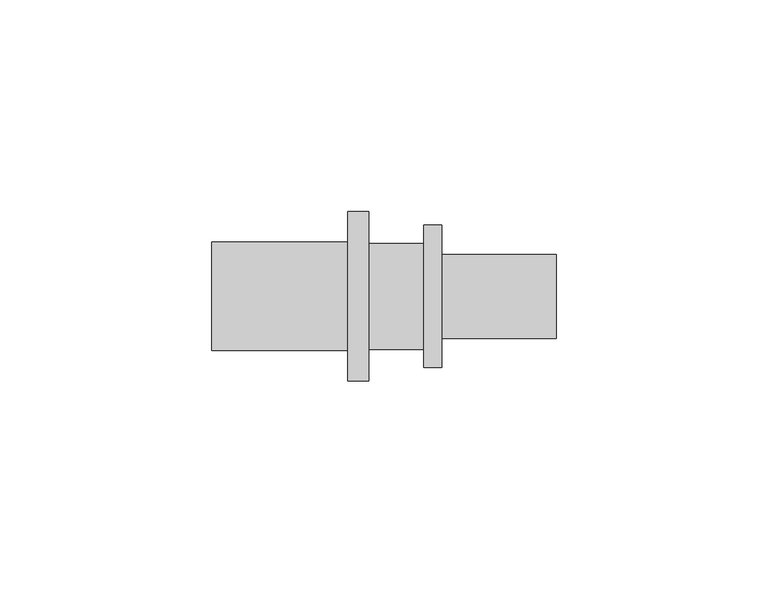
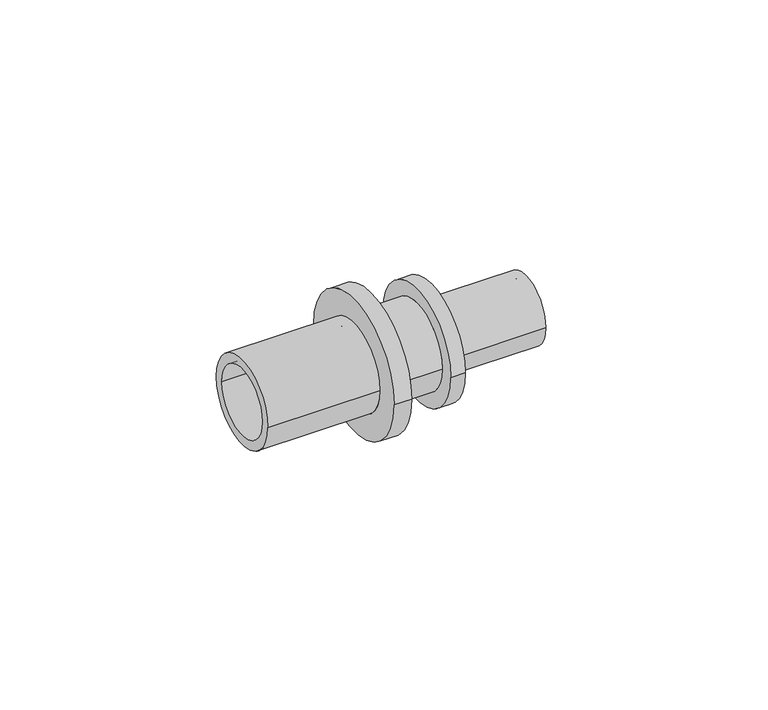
"""IFC4 building model written with IfcOpenShell, lengths in millimetres: pipe fitting geometry, RAUTITAN_Transition_RX+ : RTI RX+ Tr DE."""

from ifc_helpers import new_model, si_unit, frame, origin, place, context, project, spatial, polyline, circle_curve, source, transform, mapped, element, save
from ifc_brep_helpers import plane_surface, cylinder_surface, revolved_surface, advanced_brep


def pipe_fitting_fca7ca8d(model_context):
    return source(origin(), model_context, "Body", "AdvancedBrep", [
        advanced_brep(
        [(-43.5, 10.0, 0.0), (-43.5, -10.0, 0.0), (-11.5, -10.0, 0.0), (-11.5, 10.0, 0.0), (6.5, 12.5, 0.0), (6.5, -12.5, 0.0), (-6.5, -12.5, 0.0), (-6.5, 12.5, 0.0), (10.7, 16.8, 0.0), (10.7, -16.8, 0.0), (6.5, -16.8, 0.0), (6.5, 16.8, 0.0), (37.7, 9.9, 0.0), (37.7, -9.9, 0.0), (10.7, -9.9, 0.0), (10.7, 9.9, 0.0), (-9.1, 7.6, 0.0), (-9.1, -7.6, 0.0), (37.7, -7.6, 0.0), (37.7, 7.6, 0.0), (-6.5, 20.0, 0.0), (-6.5, -20.0, 0.0), (-11.5, 12.8, 0.0), (-11.5, -12.8, 0.0), (-43.5, -12.8, 0.0), (-43.5, 12.8, 0.0), (-11.5, -20.0, 0.0), (-11.5, 20.0, 0.0)],
        [
            (0, 1, circle_curve(frame((-43.5, 0.0, 0.0), z_axis=(-1.0, 0.0, 0.0), x_axis=(0.0, -1.0, 0.0)), 10.0)),
            (1, 2),
            (2, 3, circle_curve(frame((-11.5, 0.0, 0.0), z_axis=(1.0, 0.0, 0.0), x_axis=(0.0, -1.0, 0.0)), 10.0)),
            (3, 0),
            (4, 5, circle_curve(frame((6.5, 0.0, 0.0), z_axis=(-1.0, 0.0, 0.0), x_axis=(0.0, -1.0, 0.0)), 12.5)),
            (5, 6),
            (6, 7, circle_curve(frame((-6.5, 0.0, 0.0), z_axis=(1.0, 0.0, 0.0), x_axis=(0.0, -1.0, 0.0)), 12.5)),
            (7, 4),
            (8, 9, circle_curve(frame((10.7, 0.0, 0.0), z_axis=(-1.0, 0.0, 0.0), x_axis=(0.0, -1.0, 0.0)), 16.8)),
            (9, 10),
            (10, 11, circle_curve(frame((6.5, 0.0, 0.0), z_axis=(1.0, 0.0, 0.0), x_axis=(0.0, -1.0, 0.0)), 16.8)),
            (11, 8),
            (12, 13, circle_curve(frame((37.7, 0.0, 0.0), z_axis=(-1.0, 0.0, 0.0), x_axis=(0.0, -1.0, 0.0)), 9.9)),
            (13, 14),
            (14, 15, circle_curve(frame((10.7, 0.0, 0.0), z_axis=(1.0, 0.0, 0.0), x_axis=(0.0, -1.0, 0.0)), 9.9)),
            (15, 12),
            (16, 17, circle_curve(frame((-9.1, 0.0, 0.0), z_axis=(-1.0, 0.0, 0.0), x_axis=(0.0, -1.0, 0.0)), 7.6)),
            (17, 18),
            (18, 19, circle_curve(frame((37.7, 0.0, 0.0), z_axis=(1.0, 0.0, 0.0), x_axis=(0.0, -1.0, 0.0)), 7.6)),
            (19, 16),
            (2, 17),
            (16, 3),
            (1, 0, circle_curve(frame((-43.5, 0.0, 0.0), z_axis=(-1.0, 0.0, 0.0), x_axis=(0.0, 1.0, 0.0)), 10.0)),
            (3, 2, circle_curve(frame((-11.5, 0.0, 0.0), z_axis=(1.0, 0.0, 0.0), x_axis=(0.0, 1.0, 0.0)), 10.0)),
            (20, 21, circle_curve(frame((-6.5, 0.0, 0.0), z_axis=(1.0, 0.0, 0.0), x_axis=(0.0, 1.0, 0.0)), 20.0)),
            (21, 20, circle_curve(frame((-6.5, 0.0, 0.0), z_axis=(1.0, 0.0, 0.0), x_axis=(0.0, -1.0, 0.0)), 20.0)),
            (6, 7, circle_curve(frame((-6.5, 0.0, 0.0), z_axis=(-1.0, 0.0, 0.0), x_axis=(0.0, 1.0, 0.0)), 12.5)),
            (5, 4, circle_curve(frame((6.5, 0.0, 0.0), z_axis=(-1.0, 0.0, 0.0), x_axis=(0.0, 1.0, 0.0)), 12.5)),
            (10, 11, circle_curve(frame((6.5, 0.0, 0.0), z_axis=(-1.0, 0.0, 0.0), x_axis=(0.0, 1.0, 0.0)), 16.8)),
            (9, 8, circle_curve(frame((10.7, 0.0, 0.0), z_axis=(-1.0, 0.0, 0.0), x_axis=(0.0, 1.0, 0.0)), 16.8)),
            (14, 15, circle_curve(frame((10.7, 0.0, 0.0), z_axis=(-1.0, 0.0, 0.0), x_axis=(0.0, 1.0, 0.0)), 9.9)),
            (13, 12, circle_curve(frame((37.7, 0.0, 0.0), z_axis=(-1.0, 0.0, 0.0), x_axis=(0.0, 1.0, 0.0)), 9.9)),
            (18, 19, circle_curve(frame((37.7, 0.0, 0.0), z_axis=(-1.0, 0.0, 0.0), x_axis=(0.0, 1.0, 0.0)), 7.6)),
            (17, 16, circle_curve(frame((-9.1, 0.0, 0.0), z_axis=(-1.0, 0.0, 0.0), x_axis=(0.0, 1.0, 0.0)), 7.6)),
            (22, 23, circle_curve(frame((-11.5, 0.0, 0.0), z_axis=(-1.0, 0.0, 0.0), x_axis=(0.0, -1.0, 0.0)), 12.8)),
            (23, 24),
            (24, 25, circle_curve(frame((-43.5, 0.0, 0.0), z_axis=(1.0, 0.0, 0.0), x_axis=(0.0, -1.0, 0.0)), 12.8)),
            (25, 22),
            (21, 26),
            (26, 27, circle_curve(frame((-11.5, 0.0, 0.0), z_axis=(1.0, 0.0, 0.0), x_axis=(0.0, -1.0, 0.0)), 20.0)),
            (27, 20),
            (24, 25, circle_curve(frame((-43.5, 0.0, 0.0), z_axis=(-1.0, 0.0, 0.0), x_axis=(0.0, 1.0, 0.0)), 12.8)),
            (23, 22, circle_curve(frame((-11.5, 0.0, 0.0), z_axis=(-1.0, 0.0, 0.0), x_axis=(0.0, 1.0, 0.0)), 12.8)),
            (26, 27, circle_curve(frame((-11.5, 0.0, 0.0), z_axis=(-1.0, 0.0, 0.0), x_axis=(0.0, 1.0, 0.0)), 20.0)),
        ],
        [
            revolved_surface(polyline([(-11.5, -10.0, 0.0), (-43.5, -10.0, 0.0)]), (0.0, 0.0, 0.0), (1.0, 0.0, 0.0)),
            cylinder_surface(frame((0.0, 0.0, 0.0), z_axis=(1.0, 0.0, 0.0), x_axis=(0.0, -1.0, 0.0)), 12.5),
            cylinder_surface(frame((0.0, 0.0, 0.0), z_axis=(1.0, 0.0, 0.0), x_axis=(0.0, -1.0, 0.0)), 16.8),
            cylinder_surface(frame((0.0, 0.0, 0.0), z_axis=(1.0, 0.0, 0.0), x_axis=(0.0, -1.0, 0.0)), 9.9),
            revolved_surface(polyline([(37.7, -7.6, 0.0), (-9.1, -7.6, 0.0)]), (0.0, 0.0, 0.0), (1.0, 0.0, 0.0)),
            revolved_surface(polyline([(-9.1, -7.6, 0.0), (-11.5, -10.0, 0.0)]), (0.0, 0.0, 0.0), (1.0, 0.0, 0.0)),
            revolved_surface(polyline([(-11.5, 10.0, 0.0), (-43.5, 10.0, 0.0)]), (0.0, 0.0, 0.0), (1.0, 0.0, 0.0)),
            plane_surface(frame((-6.5, 0.0, 0.0), z_axis=(1.0, 0.0, 0.0), x_axis=(0.0, 1.0, 0.0))),
            cylinder_surface(frame((0.0, 0.0, 0.0), z_axis=(1.0, 0.0, 0.0), x_axis=(0.0, 1.0, 0.0)), 12.5),
            plane_surface(frame((6.5, 0.0, 0.0), z_axis=(-1.0, 0.0, 0.0), x_axis=(0.0, 1.0, 0.0))),
            cylinder_surface(frame((0.0, 0.0, 0.0), z_axis=(1.0, 0.0, 0.0), x_axis=(0.0, 1.0, 0.0)), 16.8),
            plane_surface(frame((10.7, 0.0, 0.0), z_axis=(1.0, 0.0, 0.0), x_axis=(0.0, 1.0, 0.0))),
            cylinder_surface(frame((0.0, 0.0, 0.0), z_axis=(1.0, 0.0, 0.0), x_axis=(0.0, 1.0, 0.0)), 9.9),
            plane_surface(frame((37.7, 0.0, 0.0), z_axis=(1.0, 0.0, 0.0), x_axis=(0.0, 1.0, 0.0))),
            revolved_surface(polyline([(37.7, 7.6, 0.0), (-9.1, 7.6, 0.0)]), (0.0, 0.0, 0.0), (1.0, 0.0, 0.0)),
            revolved_surface(polyline([(-9.1, 7.6, 0.0), (-11.5, 10.0, 0.0)]), (0.0, 0.0, 0.0), (1.0, 0.0, 0.0)),
            cylinder_surface(frame((0.0, 0.0, 0.0), z_axis=(1.0, 0.0, 0.0), x_axis=(0.0, -1.0, 0.0)), 12.8),
            cylinder_surface(frame((0.0, 0.0, 0.0), z_axis=(1.0, 0.0, 0.0), x_axis=(0.0, -1.0, 0.0)), 20.0),
            plane_surface(frame((-43.5, 0.0, 0.0), z_axis=(-1.0, 0.0, 0.0), x_axis=(0.0, 1.0, 0.0))),
            cylinder_surface(frame((0.0, 0.0, 0.0), z_axis=(1.0, 0.0, 0.0), x_axis=(0.0, 1.0, 0.0)), 12.8),
            plane_surface(frame((-11.5, 0.0, 0.0), z_axis=(-1.0, 0.0, 0.0), x_axis=(0.0, 1.0, 0.0))),
            cylinder_surface(frame((0.0, 0.0, 0.0), z_axis=(1.0, 0.0, 0.0), x_axis=(0.0, 1.0, 0.0)), 20.0),
        ],
        [
            (0, [[1, 2, 3, 4]]),
            (1, [[5, 6, 7, 8]]),
            (2, [[9, 10, 11, 12]]),
            (3, [[13, 14, 15, 16]]),
            (4, [[17, 18, 19, 20]]),
            (5, [[-3, 21, -17, 22]]),
            (6, [[23, -4, 24, -2]]),
            (7, [[25, 26], [27, -7]]),
            (8, [[28, -8, -27, -6]]),
            (9, [[29, -11], [-28, -5]]),
            (10, [[30, -12, -29, -10]]),
            (11, [[-30, -9], [31, -15]]),
            (12, [[32, -16, -31, -14]]),
            (13, [[-32, -13], [33, -19]]),
            (14, [[34, -20, -33, -18]]),
            (15, [[-24, -22, -34, -21]]),
            (16, [[35, 36, 37, 38]]),
            (17, [[-26, 39, 40, 41]]),
            (18, [[42, -37], [-23, -1]]),
            (19, [[43, -38, -42, -36]]),
            (20, [[44, -40], [-43, -35]]),
            (21, [[-25, -41, -44, -39]]),
        ],
    ),
    ])


if __name__ == "__main__":
    model = new_model("IFC4")
    model_context = context("Model", 3, world=origin())
    ifc_project = project(units=[si_unit("LENGTHUNIT", "METRE", prefix="MILLI")], contexts=[model_context])
    site = spatial("IfcSite", under=ifc_project)
    building = spatial("IfcBuilding", under=site)
    placement = place(None, origin())
    pipe_fitting_shape = pipe_fitting_fca7ca8d(model_context)
    element("IfcPipeFitting", 1, ObjectType="RAUTITAN_Transition_RX+ : RTI RX+ Tr DE", at=placement, inside=building, context=model_context, shape_type="MappedRepresentation", body=[
        mapped(pipe_fitting_shape, transform((0.0, 0.0, 0.0), x_axis=(1.0, 0.0, 0.0), y_axis=(0.0, 1.0, 0.0), z_axis=(0.0, 0.0, 1.0))),
    ])
    save(model, "model.ifc")
